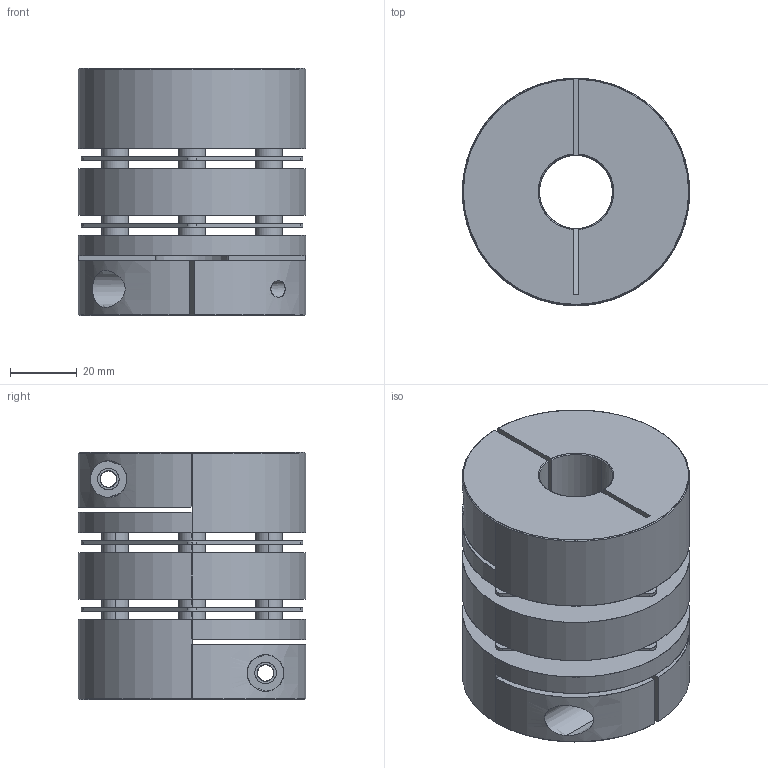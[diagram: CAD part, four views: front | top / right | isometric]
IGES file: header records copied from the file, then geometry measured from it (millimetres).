
Start section: SolidWorks IGES file using analytic representation for surfaces
Bounding box: 68 x 68 x 74 mm (x, y, z)
Surface area: 54532.8 mm2 (no closed solid volume)
Topology: 0 solids, 0 shells, 134 faces, 3089 edges, 3089 vertices
Faces by surface type: revolution 90, bspline 44
